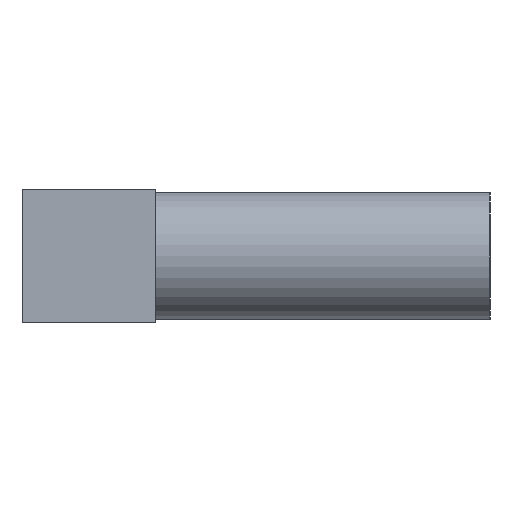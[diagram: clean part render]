
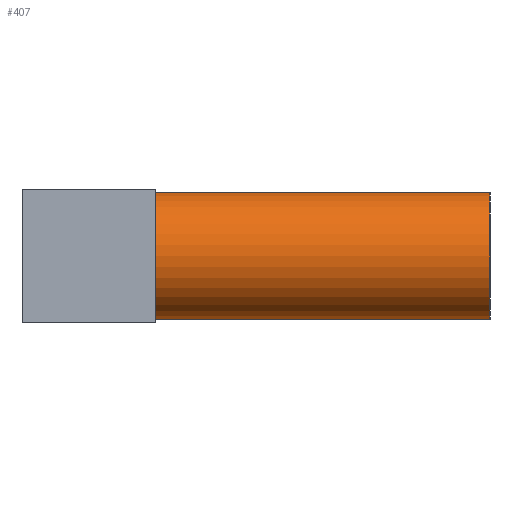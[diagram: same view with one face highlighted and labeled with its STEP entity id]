
A CAD part, left-side view. The second image highlights one B-rep face of the part: STEP entity #407.
In plain terms, the highlighted cylindrical face has radius 0.95 mm (diameter 1.9 mm), a full revolution.
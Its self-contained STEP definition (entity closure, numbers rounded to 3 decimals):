
#44 = PLANE('',#45);
#45 = AXIS2_PLACEMENT_3D('',#46,#47,#48);
#46 = CARTESIAN_POINT('',(-9.5,-19.5,4.2));
#47 = DIRECTION('',(0.,1.,0.));
#48 = DIRECTION('',(0.,0.,1.));
#216 = EDGE_CURVE('',#217,#217,#219,.T.);
#217 = VERTEX_POINT('',#218);
#218 = CARTESIAN_POINT('',(-7.55,-19.5,5.2));
#219 = SURFACE_CURVE('',#220,(#225,#232),.PCURVE_S1.);
#220 = CIRCLE('',#221,0.95);
#221 = AXIS2_PLACEMENT_3D('',#222,#223,#224);
#222 = CARTESIAN_POINT('',(-8.5,-19.5,5.2));
#223 = DIRECTION('',(0.,1.,0.));
#224 = DIRECTION('',(1.,0.,0.));
#225 = PCURVE('',#44,#226);
#226 = DEFINITIONAL_REPRESENTATION('',(#227),#231);
#227 = CIRCLE('',#228,0.95);
#228 = AXIS2_PLACEMENT_2D('',#229,#230);
#229 = CARTESIAN_POINT('',(1.,1.));
#230 = DIRECTION('',(0.,1.));
#231 = ( GEOMETRIC_REPRESENTATION_CONTEXT(2) 
PARAMETRIC_REPRESENTATION_CONTEXT() REPRESENTATION_CONTEXT('2D SPACE',''
  ) );
#232 = PCURVE('',#233,#238);
#233 = CYLINDRICAL_SURFACE('',#234,0.95);
#234 = AXIS2_PLACEMENT_3D('',#235,#236,#237);
#235 = CARTESIAN_POINT('',(-8.5,-18.5,5.2));
#236 = DIRECTION('',(-0.,1.,0.));
#237 = DIRECTION('',(1.,0.,0.));
#238 = DEFINITIONAL_REPRESENTATION('',(#239),#243);
#239 = LINE('',#240,#241);
#240 = CARTESIAN_POINT('',(-6.283,-1.));
#241 = VECTOR('',#242,1.);
#242 = DIRECTION('',(1.,-0.));
#243 = ( GEOMETRIC_REPRESENTATION_CONTEXT(2) 
PARAMETRIC_REPRESENTATION_CONTEXT() REPRESENTATION_CONTEXT('2D SPACE',''
  ) );
#407 = ADVANCED_FACE('',(#408),#233,.T.);
#408 = FACE_BOUND('',#409,.F.);
#409 = EDGE_LOOP('',(#410,#411,#434,#461));
#410 = ORIENTED_EDGE('',*,*,#216,.T.);
#411 = ORIENTED_EDGE('',*,*,#412,.T.);
#412 = EDGE_CURVE('',#217,#413,#415,.T.);
#413 = VERTEX_POINT('',#414);
#414 = CARTESIAN_POINT('',(-7.55,-24.5,5.2));
#415 = SEAM_CURVE('',#416,(#420,#427),.PCURVE_S1.);
#416 = LINE('',#417,#418);
#417 = CARTESIAN_POINT('',(-7.55,-18.5,5.2));
#418 = VECTOR('',#419,1.);
#419 = DIRECTION('',(0.,-1.,0.));
#420 = PCURVE('',#233,#421);
#421 = DEFINITIONAL_REPRESENTATION('',(#422),#426);
#422 = LINE('',#423,#424);
#423 = CARTESIAN_POINT('',(-6.283,0.));
#424 = VECTOR('',#425,1.);
#425 = DIRECTION('',(-0.,-1.));
#426 = ( GEOMETRIC_REPRESENTATION_CONTEXT(2) 
PARAMETRIC_REPRESENTATION_CONTEXT() REPRESENTATION_CONTEXT('2D SPACE',''
  ) );
#427 = PCURVE('',#233,#428);
#428 = DEFINITIONAL_REPRESENTATION('',(#429),#433);
#429 = LINE('',#430,#431);
#430 = CARTESIAN_POINT('',(-0.,0.));
#431 = VECTOR('',#432,1.);
#432 = DIRECTION('',(-0.,-1.));
#433 = ( GEOMETRIC_REPRESENTATION_CONTEXT(2) 
PARAMETRIC_REPRESENTATION_CONTEXT() REPRESENTATION_CONTEXT('2D SPACE',''
  ) );
#434 = ORIENTED_EDGE('',*,*,#435,.T.);
#435 = EDGE_CURVE('',#413,#413,#436,.T.);
#436 = SURFACE_CURVE('',#437,(#442,#449),.PCURVE_S1.);
#437 = CIRCLE('',#438,0.95);
#438 = AXIS2_PLACEMENT_3D('',#439,#440,#441);
#439 = CARTESIAN_POINT('',(-8.5,-24.5,5.2));
#440 = DIRECTION('',(0.,-1.,0.));
#441 = DIRECTION('',(1.,0.,0.));
#442 = PCURVE('',#233,#443);
#443 = DEFINITIONAL_REPRESENTATION('',(#444),#448);
#444 = LINE('',#445,#446);
#445 = CARTESIAN_POINT('',(-0.,-6.));
#446 = VECTOR('',#447,1.);
#447 = DIRECTION('',(-1.,0.));
#448 = ( GEOMETRIC_REPRESENTATION_CONTEXT(2) 
PARAMETRIC_REPRESENTATION_CONTEXT() REPRESENTATION_CONTEXT('2D SPACE',''
  ) );
#449 = PCURVE('',#450,#455);
#450 = PLANE('',#451);
#451 = AXIS2_PLACEMENT_3D('',#452,#453,#454);
#452 = CARTESIAN_POINT('',(-8.5,-24.5,5.2));
#453 = DIRECTION('',(0.,-1.,0.));
#454 = DIRECTION('',(1.,0.,0.));
#455 = DEFINITIONAL_REPRESENTATION('',(#456),#460);
#456 = CIRCLE('',#457,0.95);
#457 = AXIS2_PLACEMENT_2D('',#458,#459);
#458 = CARTESIAN_POINT('',(0.,0.));
#459 = DIRECTION('',(1.,0.));
#460 = ( GEOMETRIC_REPRESENTATION_CONTEXT(2) 
PARAMETRIC_REPRESENTATION_CONTEXT() REPRESENTATION_CONTEXT('2D SPACE',''
  ) );
#461 = ORIENTED_EDGE('',*,*,#412,.F.);
